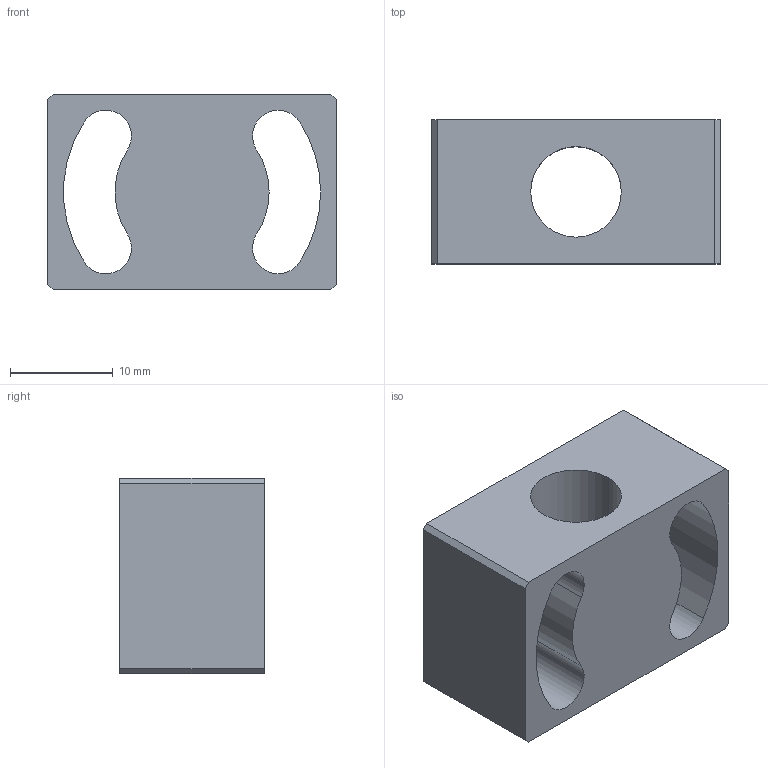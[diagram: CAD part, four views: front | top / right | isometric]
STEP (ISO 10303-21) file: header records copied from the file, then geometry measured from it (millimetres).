
FILE_DESCRIPTION (( 'STEP AP214' ), '1' );
FILE_NAME ('SMBT4-G1820.STEP', '2019-11-06T03:57:10', ( '微软用户' ), ( '微软中国' ), 'SwSTEP 2.0', 'SolidWorks 2016', '' );
FILE_SCHEMA (( 'AUTOMOTIVE_DESIGN' ));
Length unit declared in the file: millimetre
Products named in the file (1): SMBT4-G1820
Bounding box: 28 x 14 x 19 mm (x, y, z)
Volume: 4124.5 mm3; surface area: 3541.8 mm2
Topology: 1 solids, 1 shells, 24 faces, 66 edges, 44 vertices
Faces by surface type: cylinder 14, plane 10
Entity records: 824 total; most frequent: DIRECTION 144, CARTESIAN_POINT 135, ORIENTED_EDGE 132, EDGE_CURVE 66, AXIS2_PLACEMENT_3D 53, VERTEX_POINT 44, LINE 38, VECTOR 38
